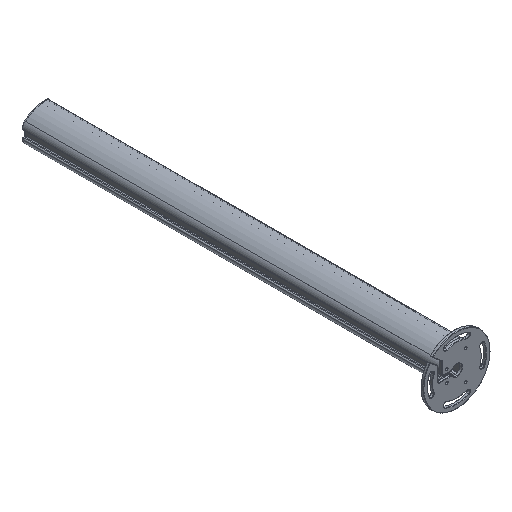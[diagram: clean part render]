
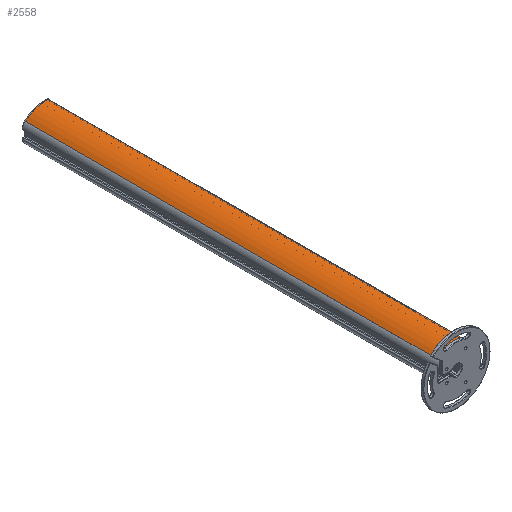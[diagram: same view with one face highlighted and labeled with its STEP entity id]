
A CAD part, isometric view. The second image highlights one B-rep face of the part: STEP entity #2558.
In plain terms, the highlighted cylindrical face has radius 79.059 mm (diameter 158.118 mm), a partial arc.
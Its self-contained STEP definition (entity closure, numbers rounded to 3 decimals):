
#72=CARTESIAN_POINT('',(24.886,-595.,-29.268));
#73=DIRECTION('',(0.,1.,0.));
#74=DIRECTION('',(-0.694,0.,0.72));
#75=AXIS2_PLACEMENT_3D('',#72,#73,#74);
#646=DIRECTION('',(0.,1.,0.));
#647=VECTOR('',#646,1190.);
#648=CARTESIAN_POINT('',(35.448,-595.,49.083));
#649=LINE('',#648,#647);
#650=DIRECTION('',(0.,1.,0.));
#651=VECTOR('',#650,1190.);
#652=CARTESIAN_POINT('',(-30.018,-595.,27.617));
#653=LINE('',#652,#651);
#1015=CARTESIAN_POINT('',(24.886,595.,-29.268));
#1016=DIRECTION('',(0.,1.,0.));
#1017=DIRECTION('',(-0.694,0.,0.72));
#1018=AXIS2_PLACEMENT_3D('',#1015,#1016,#1017);
#1116=CARTESIAN_POINT('',(-30.018,-595.,27.617));
#1117=VERTEX_POINT('',#1116);
#1118=CARTESIAN_POINT('',(35.448,-595.,49.083));
#1119=VERTEX_POINT('',#1118);
#1282=CARTESIAN_POINT('',(-30.018,595.,27.617));
#1283=VERTEX_POINT('',#1282);
#1284=CARTESIAN_POINT('',(35.448,595.,49.083));
#1285=VERTEX_POINT('',#1284);
#2545=CARTESIAN_POINT('',(24.886,-595.,-29.268));
#2546=DIRECTION('',(0.,1.,0.));
#2547=DIRECTION('',(1.,0.,0.));
#2548=AXIS2_PLACEMENT_3D('',#2545,#2546,#2547);
#2549=CYLINDRICAL_SURFACE('',#2548,79.059);
#2550=ORIENTED_EDGE('',*,*,#1453,.F.);
#2552=ORIENTED_EDGE('',*,*,#2551,.T.);
#2554=ORIENTED_EDGE('',*,*,#2553,.T.);
#2555=ORIENTED_EDGE('',*,*,#2537,.F.);
#2556=EDGE_LOOP('',(#2550,#2552,#2554,#2555));
#2557=FACE_OUTER_BOUND('',#2556,.F.);
#2558=ADVANCED_FACE('',(#2557),#2549,.T.);
#76=CIRCLE('',#75,79.059);
#1019=CIRCLE('',#1018,79.059);
#1453=EDGE_CURVE('',#1117,#1119,#76,.T.);
#2537=EDGE_CURVE('',#1119,#1285,#649,.T.);
#2551=EDGE_CURVE('',#1117,#1283,#653,.T.);
#2553=EDGE_CURVE('',#1283,#1285,#1019,.T.);
